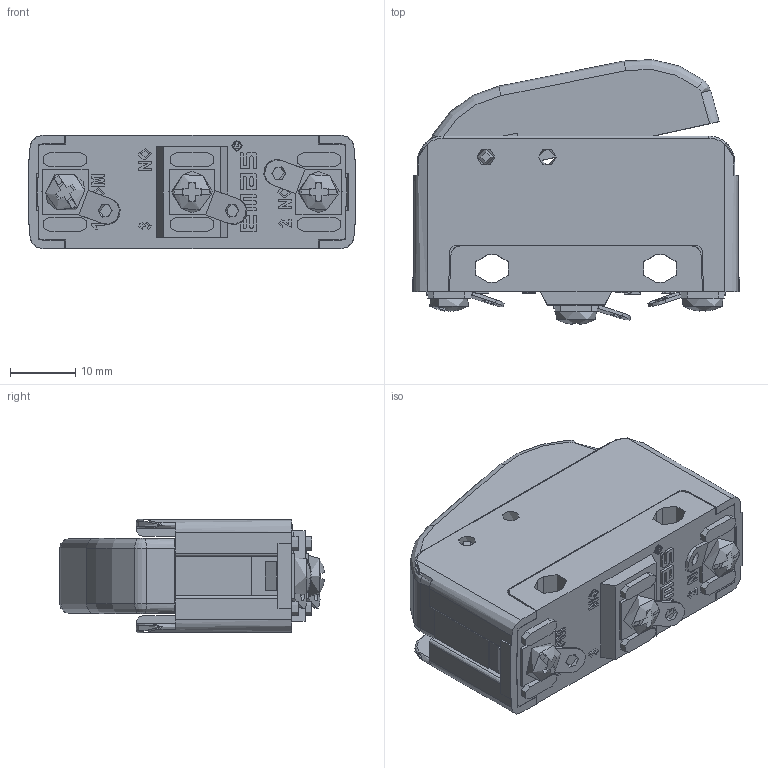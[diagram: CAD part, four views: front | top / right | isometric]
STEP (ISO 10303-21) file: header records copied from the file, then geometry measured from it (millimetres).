
FILE_DESCRIPTION((''),'2; 1');
FILE_NAME('','2026-03-27T16:31:13',(''),(''),'CST STEP Exporter V1.0','Unknown','');
FILE_SCHEMA(('CONFIG_CONTROL_DESIGN'));
Length unit declared in the file: metre
Assembly tree (12 placements, depth 2):
  (unnamed)
    (unnamed)
    (unnamed)
    (unnamed)
    (unnamed)
    (unnamed)
    (unnamed)
    (unnamed)
    (unnamed)
    (unnamed)
    (unnamed)
    (unnamed)
    (unnamed)
Bounding box: 50.1 x 40.52 x 17.4 mm (x, y, z)
Topology: 0 solids, 48 shells, 505 faces, 1547 edges, 1077 vertices
Faces by surface type: plane 298, cylinder 127, extrusion 56, torus 16, cone 5, sphere 3
Full cylindrical faces by diameter (mm): 1.4 x1, 1.8 x1, 2.2 x3, 2.7 x4
Entity records: 23393 total; most frequent: CARTESIAN_POINT 5268, ORIENTED_EDGE 2805, DIRECTION 2674, EDGE_CURVE 1593, VERTEX_POINT 1097, VECTOR 1060, LINE 1004, AXIS2_PLACEMENT_3D 807
